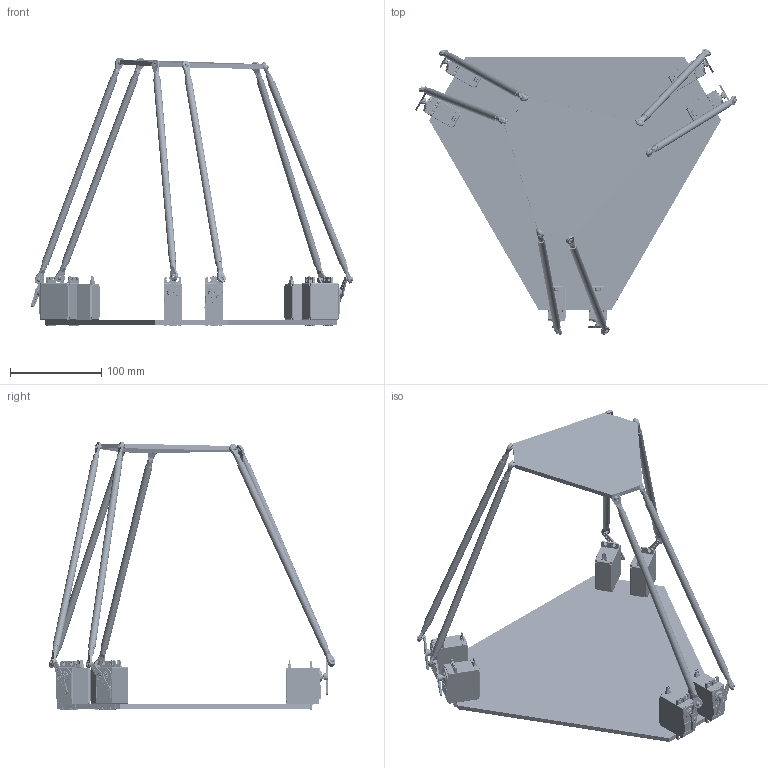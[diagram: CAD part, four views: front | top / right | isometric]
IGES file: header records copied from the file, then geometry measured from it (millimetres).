
Start section: SolidWorks IGES file using analytic representation for surfaces
Global section: file name: C:\Users\gorka\OneDrive\Desktop\SP STL\Assem3_iges.IGS; native system: SolidWorks 2021; preprocessor: SolidWorks 2021; author: gorka; date: 220628.194218; units: millimetre
Bounding box: 353.25 x 313.34 x 294.81 mm (x, y, z)
Surface area: 254942.2 mm2 (no closed solid volume)
Topology: 0 solids, 0 shells, 5631 faces, 64536 edges, 64411 vertices
Faces by surface type: revolution 2933, bspline 2698
